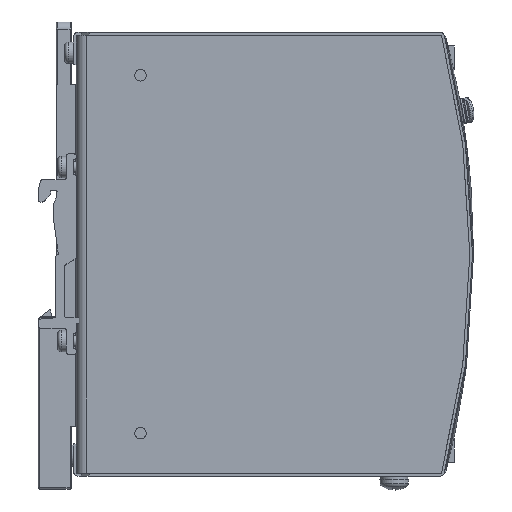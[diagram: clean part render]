
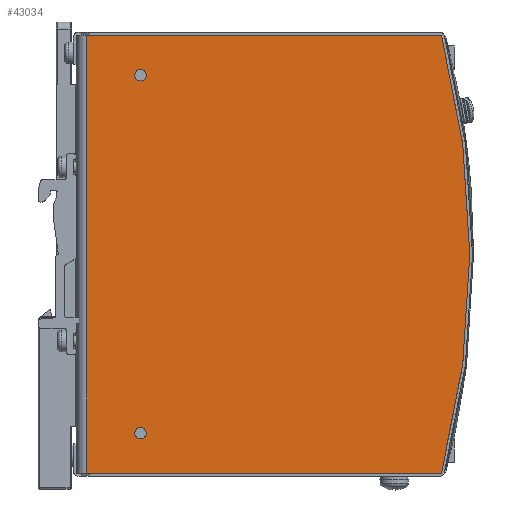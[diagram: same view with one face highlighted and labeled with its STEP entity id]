
A CAD part, front view. The second image highlights one B-rep face of the part: STEP entity #43034.
In plain terms, the highlighted planar face has unit normal (0, -1, 0).
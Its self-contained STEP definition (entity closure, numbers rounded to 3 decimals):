
#1156=LINE('',#58728,#6327);
#1163=LINE('',#58752,#6334);
#1165=LINE('',#58757,#6336);
#6327=VECTOR('',#48089,99.079);
#6334=VECTOR('',#48116,122.3);
#6336=VECTOR('',#48122,99.079);
#11482=PLANE('',#45316);
#13287=FACE_BOUND('',#16262,.T.);
#13288=FACE_BOUND('',#16263,.T.);
#14008=FACE_OUTER_BOUND('',#16261,.T.);
#16261=EDGE_LOOP('',(#30327,#30328,#30329,#30330));
#16262=EDGE_LOOP('',(#30331));
#16263=EDGE_LOOP('',(#30332));
#19194=CIRCLE('',#45280,1.6);
#19196=CIRCLE('',#45283,1.6);
#19201=CIRCLE('',#45295,240.);
#19776=VERTEX_POINT('',#58648);
#19778=VERTEX_POINT('',#58653);
#19791=VERTEX_POINT('',#58690);
#19792=VERTEX_POINT('',#58691);
#19806=VERTEX_POINT('',#58727);
#19813=VERTEX_POINT('',#58751);
#23967=EDGE_CURVE('',#19776,#19776,#19194,.T.);
#23969=EDGE_CURVE('',#19778,#19778,#19196,.T.);
#23986=EDGE_CURVE('',#19791,#19792,#19201,.T.);
#24004=EDGE_CURVE('',#19791,#19806,#1156,.T.);
#24016=EDGE_CURVE('',#19813,#19806,#1163,.T.);
#24019=EDGE_CURVE('',#19792,#19813,#1165,.T.);
#30327=ORIENTED_EDGE('',*,*,#23986,.T.);
#30328=ORIENTED_EDGE('',*,*,#24019,.T.);
#30329=ORIENTED_EDGE('',*,*,#24016,.T.);
#30330=ORIENTED_EDGE('',*,*,#24004,.F.);
#30331=ORIENTED_EDGE('',*,*,#23967,.T.);
#30332=ORIENTED_EDGE('',*,*,#23969,.T.);
#43034=ADVANCED_FACE('',(#14008,#13287,#13288),#11482,.T.);
#45280=AXIS2_PLACEMENT_3D('',#58649,#48015,#48016);
#45283=AXIS2_PLACEMENT_3D('',#58654,#48021,#48022);
#45295=AXIS2_PLACEMENT_3D('',#58692,#48057,#48058);
#45316=AXIS2_PLACEMENT_3D('',#58756,#48120,#48121);
#48015=DIRECTION('center_axis',(0.,1.,0.));
#48016=DIRECTION('ref_axis',(-1.,0.,0.));
#48021=DIRECTION('center_axis',(0.,1.,0.));
#48022=DIRECTION('ref_axis',(-1.,0.,0.));
#48057=DIRECTION('center_axis',(0.,-1.,0.));
#48058=DIRECTION('ref_axis',(-0.967,0.,-0.255));
#48089=DIRECTION('',(-1.,0.,0.));
#48116=DIRECTION('',(0.,0.,-1.));
#48120=DIRECTION('center_axis',(0.,-1.,0.));
#48121=DIRECTION('ref_axis',(0.,0.,-1.));
#48122=DIRECTION('',(-1.,0.,0.));
#58648=CARTESIAN_POINT('',(19.6,-19.5,50.));
#58649=CARTESIAN_POINT('Origin',(18.,-19.5,50.));
#58653=CARTESIAN_POINT('',(19.6,-19.5,-50.));
#58654=CARTESIAN_POINT('Origin',(18.,-19.5,-50.));
#58690=CARTESIAN_POINT('',(102.079,-19.5,-61.15));
#58691=CARTESIAN_POINT('',(102.079,-19.5,61.15));
#58692=CARTESIAN_POINT('Origin',(-130.,-19.5,0.));
#58727=CARTESIAN_POINT('',(3.,-19.5,-61.15));
#58728=CARTESIAN_POINT('',(130.,-19.5,-61.15));
#58751=CARTESIAN_POINT('',(3.,-19.5,61.15));
#58752=CARTESIAN_POINT('',(3.,-19.5,-61.15));
#58756=CARTESIAN_POINT('Origin',(130.,-19.5,-61.15));
#58757=CARTESIAN_POINT('',(130.,-19.5,61.15));
